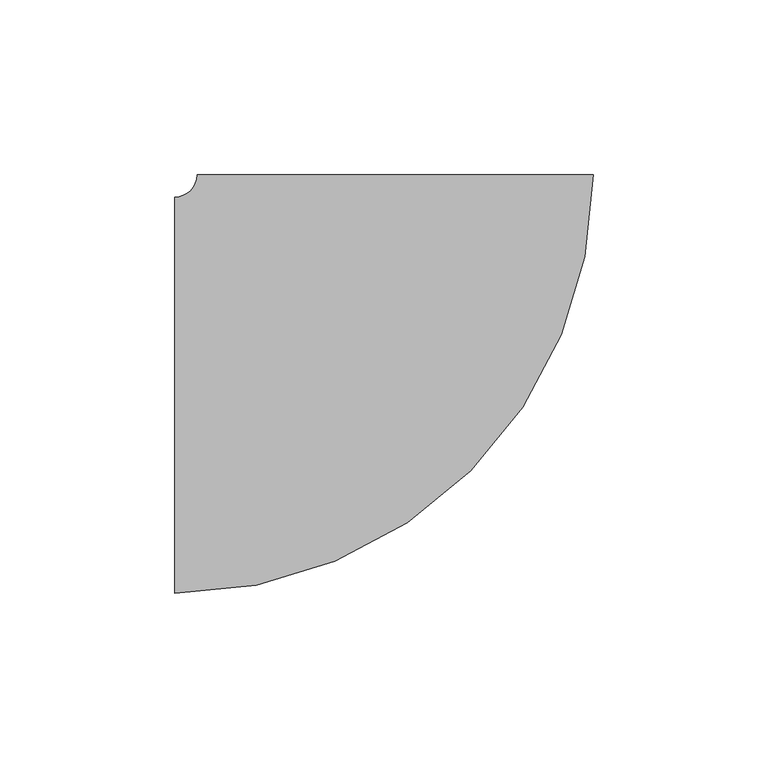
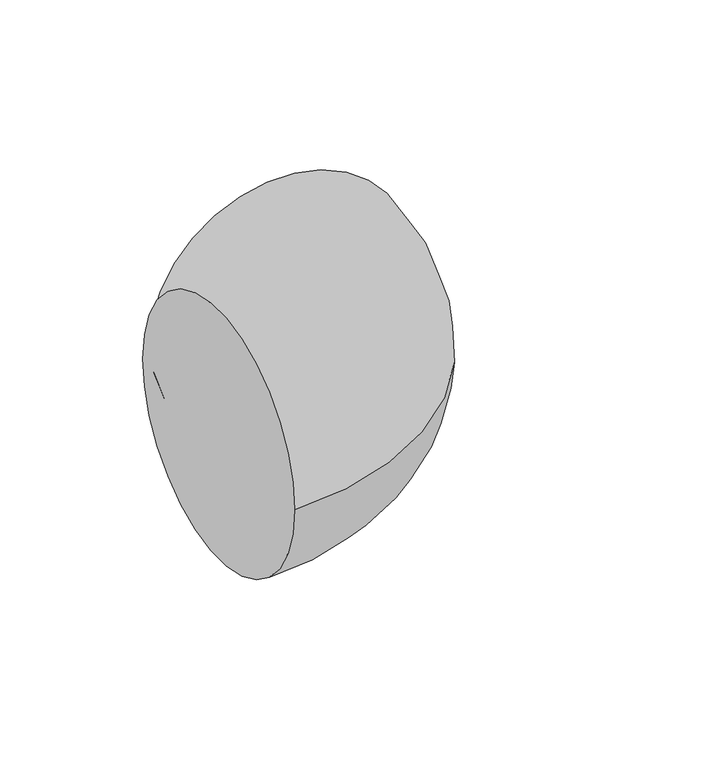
"""IFC4 building model written with IfcOpenShell, lengths in millimetres: pipe fitting geometry, M_Codo - Genérico : Estándar."""

from ifc_helpers import new_model, si_unit, point, frame, origin, place, context, project, spatial, circle_curve, ellipse_curve, trimmed, source, transform, mapped, element, save
from ifc_brep_helpers import plane_surface, revolved_surface, advanced_brep


def pipe_fitting_f15cb6fd(model_context):
    return source(origin(), model_context, "Body", "AdvancedBrep", [
        advanced_brep(
        [(-62.9410809, -56.5875, 0.0), (-62.9410809, 56.5875, 0.0), (56.5839189, 62.9443004, 0.0), (-56.5910809, 62.9378613, 0.0)],
        [
            (0, 1, circle_curve(frame((-62.9410809, 0.0, 0.0), z_axis=(-1.0, 0.0, 0.0), x_axis=(0.0, 1.0, 0.0)), 56.5875)),
            (1, 0, circle_curve(frame((-62.9410809, 0.0, 0.0), z_axis=(-1.0, 0.0, 0.0), x_axis=(0.0, 1.0, 0.0)), 56.5875)),
            (2, 3, circle_curve(frame((-0.003581, 62.9410808, 0.0), z_axis=(-5.6894956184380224e-05, 0.999999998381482, 0.0), x_axis=(-0.999999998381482, -5.6894956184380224e-05, 0.0)), 56.5875)),
            (3, 2, circle_curve(frame((-0.003581, 62.9410808, 0.0), z_axis=(-5.6894956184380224e-05, 0.999999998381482, 0.0), x_axis=(-0.999999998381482, -5.6894956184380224e-05, 0.0)), 56.5875)),
            (3, 1, circle_curve(frame((-62.9410809, 62.9375, 0.0), z_axis=(0.0, 0.0, -1.0), x_axis=(0.0, -1.0, 0.0)), 6.35)),
            (0, 2, circle_curve(frame((-62.9410809, 62.9375, 0.0), z_axis=(0.0, 0.0, 1.0), x_axis=(0.0, -1.0, 0.0)), 119.525)),
        ],
        [
            plane_surface(frame((-62.9410809, 0.0, 0.0), z_axis=(-1.0, 0.0, 0.0), x_axis=(0.0, 0.0, 1.0))),
            plane_surface(frame((-0.003581, 62.9410808, 0.0), z_axis=(-5.689495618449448e-05, 0.999999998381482, 0.0), x_axis=(0.0, 0.0, 1.0))),
            revolved_surface(trimmed(ellipse_curve(frame((-62.9410809, 0.0, 0.0), z_axis=(-1.0, 0.0, 0.0), x_axis=(0.0, 1.0, 0.0)), 56.5875, 56.5875), [point((-62.9410809, -56.5875, 0.0))], [point((-62.9410809, 56.5875, 0.0))], True, "CARTESIAN"), (-62.9410809, 62.9375, 0.0), (0.0, 0.0, 1.0)),
            revolved_surface(trimmed(ellipse_curve(frame((-62.9410809, 0.0, 0.0), z_axis=(-1.0, 0.0, 0.0), x_axis=(0.0, 1.0, 0.0)), 56.5875, 56.5875), [point((-62.9410809, 56.5875, 0.0))], [point((-62.9410809, -56.5875, 0.0))], True, "CARTESIAN"), (-62.9410809, 62.9375, 0.0), (0.0, 0.0, 1.0)),
        ],
        [
            (0, [[1, 2]]),
            (1, [[3, 4]]),
            (2, [[5, -1, 6, -4]]),
            (3, [[-6, -2, -5, -3]]),
        ],
    ),
    ])


if __name__ == "__main__":
    model = new_model("IFC4")
    model_context = context("Model", 3, world=origin())
    ifc_project = project(units=[si_unit("LENGTHUNIT", "METRE", prefix="MILLI")], contexts=[model_context])
    site = spatial("IfcSite", under=ifc_project)
    building = spatial("IfcBuilding", under=site)
    placement = place(None, origin())
    pipe_fitting_shape = pipe_fitting_f15cb6fd(model_context)
    element("IfcPipeFitting", 1, ObjectType="M_Codo - Genérico : Estándar", at=placement, inside=building, context=model_context, shape_type="MappedRepresentation", body=[
        mapped(pipe_fitting_shape, transform((0.0, 0.0, 0.0), x_axis=(1.0, 0.0, 0.0), y_axis=(0.0, 1.0, 0.0), z_axis=(0.0, 0.0, 1.0))),
    ])
    save(model, "model.ifc")
